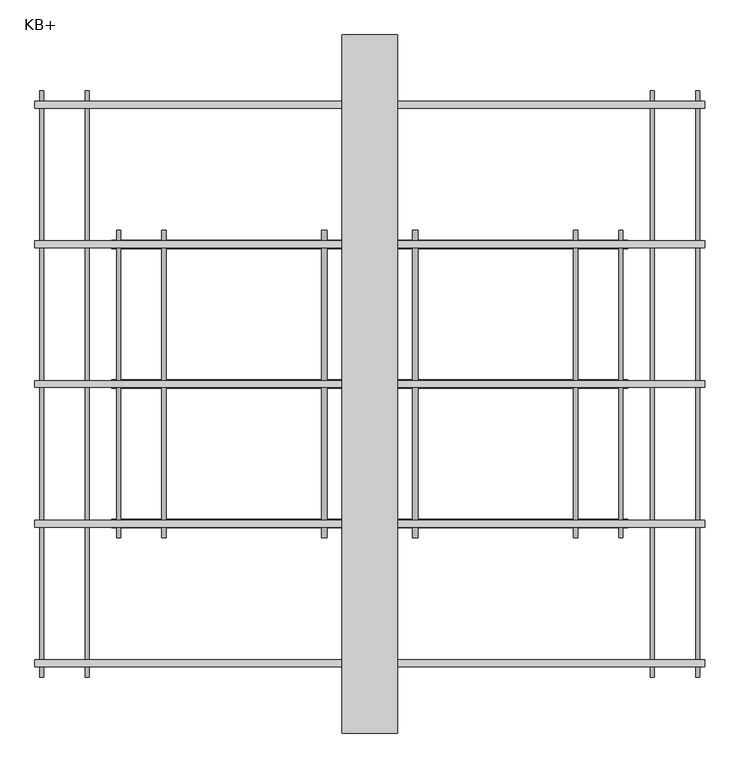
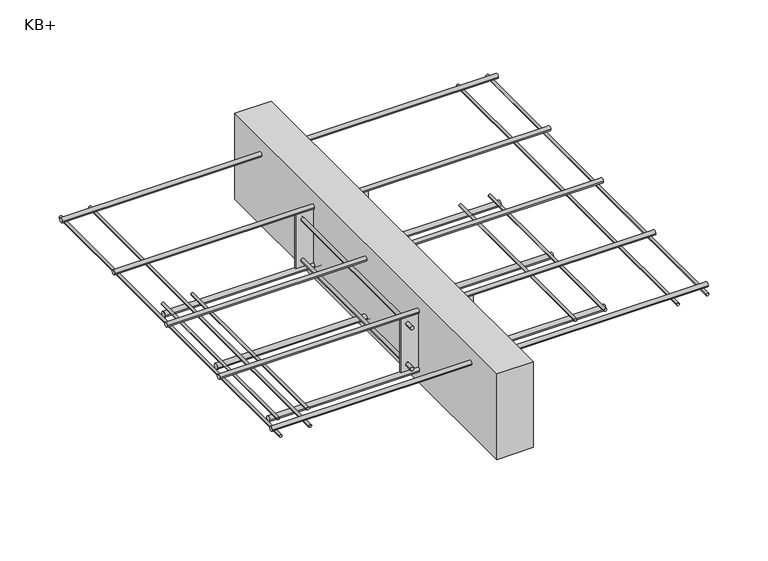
"""IFC4 building model written with IfcOpenShell, lengths in millimetres: fastener geometry, ACINOXplus_Typenreihe_K : KB+."""

from ifc_helpers import new_model, si_unit, point, frame, frame_2d, origin, place, context, project, spatial, polyline, circle_curve, trimmed, segment, composite_curve, outline, extrude, source, transform, mapped, element, save


def kb_61a372f1(model_context):
    return source(origin(), model_context, "Body", "SweptSolid", [
        extrude(outline(polyline([(40.0, 500.0), (40.0, -500.0), (-40.0, -500.0), (-40.0, 500.0), (40.0, 500.0)])), frame((0.0, 0.0, -200.0), z_axis=(0.0, 0.0, 1.0), x_axis=(1.0, 0.0, 0.0)), (0.0, 0.0, 1.0), 200.0),
        extrude(outline(polyline([(80.0, -198.5), (80.0, -201.5), (-80.0, -201.5), (-80.0, -198.5), (80.0, -198.5)])), frame((0.0, 0.0, -165.0), z_axis=(0.0, 0.0, 1.0), x_axis=(1.0, 0.0, 0.0)), (0.0, 0.0, 1.0), 125.0),
        extrude(outline(polyline([(80.0, 201.5), (80.0, 198.5), (-80.0, 198.5), (-80.0, 201.5), (80.0, 201.5)])), frame((0.0, 0.0, -165.0), z_axis=(0.0, 0.0, 1.0), x_axis=(1.0, 0.0, 0.0)), (0.0, 0.0, 1.0), 125.0),
        extrude(outline(composite_curve([segment(trimmed(circle_curve(frame_2d((-150.0, -65.0)), 4.0), [point((-150.0, -69.0))], [point((-150.0, -61.0))], False, "CARTESIAN"), True, "CONTINUOUS"), segment(trimmed(circle_curve(frame_2d((-150.0, -65.0)), 4.0), [point((-150.0, -61.0))], [point((-150.0, -69.0))], False, "CARTESIAN"), True, "CONTINUOUS")], self_intersect=False)), frame((0.0, 201.5, 0.0), z_axis=(0.0, 1.0, 0.0), x_axis=(0.0, 0.0, 1.0)), (0.0, 0.0, 1.0), 18.5),
        extrude(outline(composite_curve([segment(trimmed(circle_curve(frame_2d((-150.0, -65.0)), 4.0), [point((-150.0, -61.0))], [point((-150.0, -69.0))], False, "CARTESIAN"), True, "CONTINUOUS"), segment(trimmed(circle_curve(frame_2d((-150.0, -65.0)), 4.0), [point((-150.0, -69.0))], [point((-150.0, -61.0))], False, "CARTESIAN"), True, "CONTINUOUS")], self_intersect=False)), frame((0.0, -220.0, 0.0), z_axis=(0.0, 1.0, 0.0), x_axis=(0.0, 0.0, 1.0)), (0.0, 0.0, 1.0), 18.5),
        extrude(outline(composite_curve([segment(trimmed(circle_curve(frame_2d((-150.0, -65.0)), 4.0), [point((-150.0, -69.0))], [point((-150.0, -61.0))], False, "CARTESIAN"), True, "CONTINUOUS"), segment(trimmed(circle_curve(frame_2d((-150.0, -65.0)), 4.0), [point((-150.0, -61.0))], [point((-150.0, -69.0))], False, "CARTESIAN"), True, "CONTINUOUS")], self_intersect=False)), frame((0.0, -198.5, 0.0), z_axis=(0.0, 1.0, 0.0), x_axis=(0.0, 0.0, 1.0)), (0.0, 0.0, 1.0), 397.0),
        extrude(outline(composite_curve([segment(trimmed(circle_curve(frame_2d((-150.0, 65.0)), 4.0), [point((-150.0, 61.0))], [point((-150.0, 69.0))], False, "CARTESIAN"), True, "CONTINUOUS"), segment(trimmed(circle_curve(frame_2d((-150.0, 65.0)), 4.0), [point((-150.0, 69.0))], [point((-150.0, 61.0))], False, "CARTESIAN"), True, "CONTINUOUS")], self_intersect=False)), frame((0.0, 201.5, 0.0), z_axis=(0.0, 1.0, 0.0), x_axis=(0.0, 0.0, 1.0)), (0.0, 0.0, 1.0), 18.5),
        extrude(outline(composite_curve([segment(trimmed(circle_curve(frame_2d((-150.0, 65.0)), 4.0), [point((-150.0, 69.0))], [point((-150.0, 61.0))], False, "CARTESIAN"), True, "CONTINUOUS"), segment(trimmed(circle_curve(frame_2d((-150.0, 65.0)), 4.0), [point((-150.0, 61.0))], [point((-150.0, 69.0))], False, "CARTESIAN"), True, "CONTINUOUS")], self_intersect=False)), frame((0.0, -220.0, 0.0), z_axis=(0.0, 1.0, 0.0), x_axis=(0.0, 0.0, 1.0)), (0.0, 0.0, 1.0), 18.5),
        extrude(outline(composite_curve([segment(trimmed(circle_curve(frame_2d((-150.0, 65.0)), 4.0), [point((-150.0, 61.0))], [point((-150.0, 69.0))], False, "CARTESIAN"), True, "CONTINUOUS"), segment(trimmed(circle_curve(frame_2d((-150.0, 65.0)), 4.0), [point((-150.0, 69.0))], [point((-150.0, 61.0))], False, "CARTESIAN"), True, "CONTINUOUS")], self_intersect=False)), frame((0.0, -198.5, 0.0), z_axis=(0.0, 1.0, 0.0), x_axis=(0.0, 0.0, 1.0)), (0.0, 0.0, 1.0), 397.0),
        extrude(outline(composite_curve([segment(trimmed(circle_curve(frame_2d((-55.0, -65.0)), 4.0), [point((-55.0, -69.0))], [point((-55.0, -61.0))], False, "CARTESIAN"), True, "CONTINUOUS"), segment(trimmed(circle_curve(frame_2d((-55.0, -65.0)), 4.0), [point((-55.0, -61.0))], [point((-55.0, -69.0))], False, "CARTESIAN"), True, "CONTINUOUS")], self_intersect=False)), frame((0.0, 201.5, 0.0), z_axis=(0.0, 1.0, 0.0), x_axis=(0.0, 0.0, 1.0)), (0.0, 0.0, 1.0), 18.5),
        extrude(outline(composite_curve([segment(trimmed(circle_curve(frame_2d((-55.0, -65.0)), 4.0), [point((-55.0, -61.0))], [point((-55.0, -69.0))], False, "CARTESIAN"), True, "CONTINUOUS"), segment(trimmed(circle_curve(frame_2d((-55.0, -65.0)), 4.0), [point((-55.0, -69.0))], [point((-55.0, -61.0))], False, "CARTESIAN"), True, "CONTINUOUS")], self_intersect=False)), frame((0.0, -220.0, 0.0), z_axis=(0.0, 1.0, 0.0), x_axis=(0.0, 0.0, 1.0)), (0.0, 0.0, 1.0), 18.5),
        extrude(outline(composite_curve([segment(trimmed(circle_curve(frame_2d((-55.0, -65.0)), 4.0), [point((-55.0, -69.0))], [point((-55.0, -61.0))], False, "CARTESIAN"), True, "CONTINUOUS"), segment(trimmed(circle_curve(frame_2d((-55.0, -65.0)), 4.0), [point((-55.0, -61.0))], [point((-55.0, -69.0))], False, "CARTESIAN"), True, "CONTINUOUS")], self_intersect=False)), frame((0.0, -198.5, 0.0), z_axis=(0.0, 1.0, 0.0), x_axis=(0.0, 0.0, 1.0)), (0.0, 0.0, 1.0), 397.0),
        extrude(outline(composite_curve([segment(trimmed(circle_curve(frame_2d((-55.0, 65.0)), 4.0), [point((-55.0, 61.0))], [point((-55.0, 69.0))], False, "CARTESIAN"), True, "CONTINUOUS"), segment(trimmed(circle_curve(frame_2d((-55.0, 65.0)), 4.0), [point((-55.0, 69.0))], [point((-55.0, 61.0))], False, "CARTESIAN"), True, "CONTINUOUS")], self_intersect=False)), frame((0.0, 201.5, 0.0), z_axis=(0.0, 1.0, 0.0), x_axis=(0.0, 0.0, 1.0)), (0.0, 0.0, 1.0), 18.5),
        extrude(outline(composite_curve([segment(trimmed(circle_curve(frame_2d((-55.0, 65.0)), 4.0), [point((-55.0, 69.0))], [point((-55.0, 61.0))], False, "CARTESIAN"), True, "CONTINUOUS"), segment(trimmed(circle_curve(frame_2d((-55.0, 65.0)), 4.0), [point((-55.0, 61.0))], [point((-55.0, 69.0))], False, "CARTESIAN"), True, "CONTINUOUS")], self_intersect=False)), frame((0.0, -220.0, 0.0), z_axis=(0.0, 1.0, 0.0), x_axis=(0.0, 0.0, 1.0)), (0.0, 0.0, 1.0), 18.5),
        extrude(outline(composite_curve([segment(trimmed(circle_curve(frame_2d((-55.0, 65.0)), 4.0), [point((-55.0, 61.0))], [point((-55.0, 69.0))], False, "CARTESIAN"), True, "CONTINUOUS"), segment(trimmed(circle_curve(frame_2d((-55.0, 65.0)), 4.0), [point((-55.0, 69.0))], [point((-55.0, 61.0))], False, "CARTESIAN"), True, "CONTINUOUS")], self_intersect=False)), frame((0.0, -198.5, 0.0), z_axis=(0.0, 1.0, 0.0), x_axis=(0.0, 0.0, 1.0)), (0.0, 0.0, 1.0), 397.0),
        extrude(outline(composite_curve([segment(trimmed(circle_curve(frame_2d((0.0, -171.0)), 6.0), [point((-6.0, -171.0))], [point((6.0, -171.0))], False, "CARTESIAN"), True, "CONTINUOUS"), segment(trimmed(circle_curve(frame_2d((0.0, -171.0)), 6.0), [point((6.0, -171.0))], [point((-6.0, -171.0))], False, "CARTESIAN"), True, "CONTINUOUS")], self_intersect=False)), frame((-370.0, 0.0, 0.0), z_axis=(1.0, 0.0, 0.0), x_axis=(0.0, 1.0, 0.0)), (0.0, 0.0, 1.0), 740.0),
        extrude(outline(composite_curve([segment(trimmed(circle_curve(frame_2d((200.0, -171.0)), 6.0), [point((194.0, -171.0))], [point((206.0, -171.0))], False, "CARTESIAN"), True, "CONTINUOUS"), segment(trimmed(circle_curve(frame_2d((200.0, -171.0)), 6.0), [point((206.0, -171.0))], [point((194.0, -171.0))], False, "CARTESIAN"), True, "CONTINUOUS")], self_intersect=False)), frame((-370.0, 0.0, 0.0), z_axis=(1.0, 0.0, 0.0), x_axis=(0.0, 1.0, 0.0)), (0.0, 0.0, 1.0), 740.0),
        extrude(outline(composite_curve([segment(trimmed(circle_curve(frame_2d((-200.0, -171.0)), 6.0), [point((-206.0, -171.0))], [point((-194.0, -171.0))], False, "CARTESIAN"), True, "CONTINUOUS"), segment(trimmed(circle_curve(frame_2d((-200.0, -171.0)), 6.0), [point((-194.0, -171.0))], [point((-206.0, -171.0))], False, "CARTESIAN"), True, "CONTINUOUS")], self_intersect=False)), frame((-370.0, 0.0, 0.0), z_axis=(1.0, 0.0, 0.0), x_axis=(0.0, 1.0, 0.0)), (0.0, 0.0, 1.0), 740.0),
        extrude(outline(composite_curve([segment(trimmed(circle_curve(frame_2d((0.0, -35.0)), 5.0), [point((-5.0, -35.0))], [point((5.0, -35.0))], False, "CARTESIAN"), True, "CONTINUOUS"), segment(trimmed(circle_curve(frame_2d((0.0, -35.0)), 5.0), [point((5.0, -35.0))], [point((-5.0, -35.0))], False, "CARTESIAN"), True, "CONTINUOUS")], self_intersect=False)), frame((-480.0, 0.0, 0.0), z_axis=(1.0, 0.0, 0.0), x_axis=(0.0, 1.0, 0.0)), (0.0, 0.0, 1.0), 960.0),
        extrude(outline(composite_curve([segment(trimmed(circle_curve(frame_2d((200.0, -35.0)), 5.0), [point((195.0, -35.0))], [point((205.0, -35.0))], False, "CARTESIAN"), True, "CONTINUOUS"), segment(trimmed(circle_curve(frame_2d((200.0, -35.0)), 5.0), [point((205.0, -35.0))], [point((195.0, -35.0))], False, "CARTESIAN"), True, "CONTINUOUS")], self_intersect=False)), frame((-480.0, 0.0, 0.0), z_axis=(1.0, 0.0, 0.0), x_axis=(0.0, 1.0, 0.0)), (0.0, 0.0, 1.0), 960.0),
        extrude(outline(composite_curve([segment(trimmed(circle_curve(frame_2d((400.0, -35.0)), 5.0), [point((395.0, -35.0))], [point((405.0, -35.0))], False, "CARTESIAN"), True, "CONTINUOUS"), segment(trimmed(circle_curve(frame_2d((400.0, -35.0)), 5.0), [point((405.0, -35.0))], [point((395.0, -35.0))], False, "CARTESIAN"), True, "CONTINUOUS")], self_intersect=False)), frame((-480.0, 0.0, 0.0), z_axis=(1.0, 0.0, 0.0), x_axis=(0.0, 1.0, 0.0)), (0.0, 0.0, 1.0), 960.0),
        extrude(outline(composite_curve([segment(trimmed(circle_curve(frame_2d((-200.0, -35.0)), 5.0), [point((-205.0, -35.0))], [point((-195.0, -35.0))], False, "CARTESIAN"), True, "CONTINUOUS"), segment(trimmed(circle_curve(frame_2d((-200.0, -35.0)), 5.0), [point((-195.0, -35.0))], [point((-205.0, -35.0))], False, "CARTESIAN"), True, "CONTINUOUS")], self_intersect=False)), frame((-480.0, 0.0, 0.0), z_axis=(1.0, 0.0, 0.0), x_axis=(0.0, 1.0, 0.0)), (0.0, 0.0, 1.0), 960.0),
        extrude(outline(composite_curve([segment(trimmed(circle_curve(frame_2d((-400.0, -35.0)), 5.0), [point((-405.0, -35.0))], [point((-395.0, -35.0))], False, "CARTESIAN"), True, "CONTINUOUS"), segment(trimmed(circle_curve(frame_2d((-400.0, -35.0)), 5.0), [point((-395.0, -35.0))], [point((-405.0, -35.0))], False, "CARTESIAN"), True, "CONTINUOUS")], self_intersect=False)), frame((-480.0, 0.0, 0.0), z_axis=(1.0, 0.0, 0.0), x_axis=(0.0, 1.0, 0.0)), (0.0, 0.0, 1.0), 960.0),
        extrude(outline(composite_curve([segment(trimmed(circle_curve(frame_2d((-162.0, -360.0)), 3.0), [point((-162.0, -357.0))], [point((-162.0, -363.0))], False, "CARTESIAN"), True, "CONTINUOUS"), segment(trimmed(circle_curve(frame_2d((-162.0, -360.0)), 3.0), [point((-162.0, -363.0))], [point((-162.0, -357.0))], False, "CARTESIAN"), True, "CONTINUOUS")], self_intersect=False)), frame((0.0, -220.0, 0.0), z_axis=(0.0, 1.0, 0.0), x_axis=(0.0, 0.0, 1.0)), (0.0, 0.0, 1.0), 440.0),
        extrude(outline(composite_curve([segment(trimmed(circle_curve(frame_2d((-162.0, -295.0)), 3.0), [point((-162.0, -292.0))], [point((-162.0, -298.0))], False, "CARTESIAN"), True, "CONTINUOUS"), segment(trimmed(circle_curve(frame_2d((-162.0, -295.0)), 3.0), [point((-162.0, -298.0))], [point((-162.0, -292.0))], False, "CARTESIAN"), True, "CONTINUOUS")], self_intersect=False)), frame((0.0, -220.0, 0.0), z_axis=(0.0, 1.0, 0.0), x_axis=(0.0, 0.0, 1.0)), (0.0, 0.0, 1.0), 440.0),
        extrude(outline(composite_curve([segment(trimmed(circle_curve(frame_2d((-162.0, 295.0)), 3.0), [point((-162.0, 298.0))], [point((-162.0, 292.0))], False, "CARTESIAN"), True, "CONTINUOUS"), segment(trimmed(circle_curve(frame_2d((-162.0, 295.0)), 3.0), [point((-162.0, 292.0))], [point((-162.0, 298.0))], False, "CARTESIAN"), True, "CONTINUOUS")], self_intersect=False)), frame((0.0, -220.0, 0.0), z_axis=(0.0, 1.0, 0.0), x_axis=(0.0, 0.0, 1.0)), (0.0, 0.0, 1.0), 440.0),
        extrude(outline(composite_curve([segment(trimmed(circle_curve(frame_2d((-162.0, 360.0)), 3.0), [point((-162.0, 363.0))], [point((-162.0, 357.0))], False, "CARTESIAN"), True, "CONTINUOUS"), segment(trimmed(circle_curve(frame_2d((-162.0, 360.0)), 3.0), [point((-162.0, 357.0))], [point((-162.0, 363.0))], False, "CARTESIAN"), True, "CONTINUOUS")], self_intersect=False)), frame((0.0, -220.0, 0.0), z_axis=(0.0, 1.0, 0.0), x_axis=(0.0, 0.0, 1.0)), (0.0, 0.0, 1.0), 440.0),
        extrude(outline(composite_curve([segment(trimmed(circle_curve(frame_2d((-43.0, 405.0)), 3.0), [point((-43.0, 408.0))], [point((-43.0, 402.0))], False, "CARTESIAN"), True, "CONTINUOUS"), segment(trimmed(circle_curve(frame_2d((-43.0, 405.0)), 3.0), [point((-43.0, 402.0))], [point((-43.0, 408.0))], False, "CARTESIAN"), True, "CONTINUOUS")], self_intersect=False)), frame((0.0, -420.0, 0.0), z_axis=(0.0, 1.0, 0.0), x_axis=(0.0, 0.0, 1.0)), (0.0, 0.0, 1.0), 840.0),
        extrude(outline(composite_curve([segment(trimmed(circle_curve(frame_2d((-43.0, 470.0)), 3.0), [point((-43.0, 473.0))], [point((-43.0, 467.0))], False, "CARTESIAN"), True, "CONTINUOUS"), segment(trimmed(circle_curve(frame_2d((-43.0, 470.0)), 3.0), [point((-43.0, 467.0))], [point((-43.0, 473.0))], False, "CARTESIAN"), True, "CONTINUOUS")], self_intersect=False)), frame((0.0, -420.0, 0.0), z_axis=(0.0, 1.0, 0.0), x_axis=(0.0, 0.0, 1.0)), (0.0, 0.0, 1.0), 840.0),
        extrude(outline(composite_curve([segment(trimmed(circle_curve(frame_2d((-43.0, -470.0)), 3.0), [point((-43.0, -467.0))], [point((-43.0, -473.0))], False, "CARTESIAN"), True, "CONTINUOUS"), segment(trimmed(circle_curve(frame_2d((-43.0, -470.0)), 3.0), [point((-43.0, -473.0))], [point((-43.0, -467.0))], False, "CARTESIAN"), True, "CONTINUOUS")], self_intersect=False)), frame((0.0, -420.0, 0.0), z_axis=(0.0, 1.0, 0.0), x_axis=(0.0, 0.0, 1.0)), (0.0, 0.0, 1.0), 840.0),
        extrude(outline(composite_curve([segment(trimmed(circle_curve(frame_2d((-43.0, -405.0)), 3.0), [point((-43.0, -402.0))], [point((-43.0, -408.0))], False, "CARTESIAN"), True, "CONTINUOUS"), segment(trimmed(circle_curve(frame_2d((-43.0, -405.0)), 3.0), [point((-43.0, -408.0))], [point((-43.0, -402.0))], False, "CARTESIAN"), True, "CONTINUOUS")], self_intersect=False)), frame((0.0, -420.0, 0.0), z_axis=(0.0, 1.0, 0.0), x_axis=(0.0, 0.0, 1.0)), (0.0, 0.0, 1.0), 840.0),
    ])


if __name__ == "__main__":
    model = new_model("IFC4")
    model_context = context("Model", 3, world=origin())
    ifc_project = project(units=[si_unit("LENGTHUNIT", "METRE", prefix="MILLI")], contexts=[model_context])
    site = spatial("IfcSite", under=ifc_project)
    building = spatial("IfcBuilding", under=site)
    placement = place(None, origin())
    kb_shape = kb_61a372f1(model_context)
    element("IfcFastener", 1, ObjectType="ACINOXplus_Typenreihe_K : KB+", at=placement, inside=building, context=model_context, shape_type="MappedRepresentation", body=[
        mapped(kb_shape, transform((0.0, 0.0, 0.0), x_axis=(1.0, 0.0, 0.0), y_axis=(0.0, 1.0, 0.0), z_axis=(0.0, 0.0, 1.0))),
    ])
    save(model, "model.ifc")
